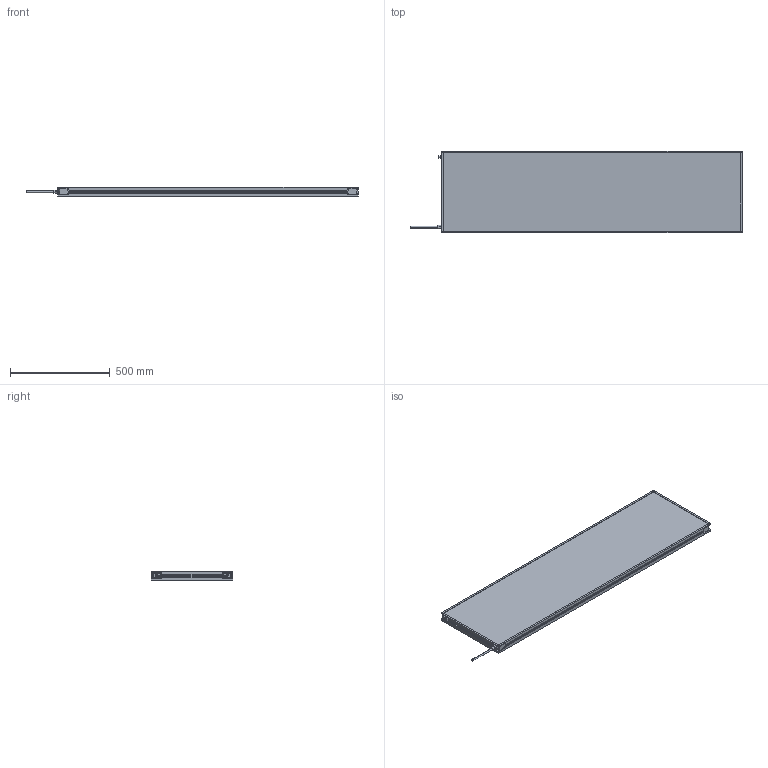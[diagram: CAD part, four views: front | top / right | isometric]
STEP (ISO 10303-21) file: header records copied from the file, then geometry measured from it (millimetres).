
FILE_DESCRIPTION (( 'STEP AP214' ), '1' );
FILE_NAME ('MBACK-xxxx-xxx-M1A2_CLIENT400x1500.STEP', '2022-04-01T11:36:47', ( '' ), ( '' ), 'SwSTEP 2.0', 'SolidWorks 2020', '' );
FILE_SCHEMA (( 'AUTOMOTIVE_DESIGN' ));
Length unit declared in the file: millimetre
Products named in the file (1): MBACK-xxxx-xxx-M1A2_CLIENT400x1500
Bounding box: 1667.4 x 408 x 45.5 mm (x, y, z)
Volume: 25611333.3 mm3; surface area: 1491027.5 mm2
Topology: 1 solids, 1 shells, 470 faces, 1210 edges, 804 vertices
Faces by surface type: plane 265, cylinder 117, bspline 80, cone 8
Entity records: 18046 total; most frequent: CARTESIAN_POINT 6837, ORIENTED_EDGE 2420, DIRECTION 2082, EDGE_CURVE 1210, VERTEX_POINT 804, LINE 800, VECTOR 800, AXIS2_PLACEMENT_3D 641
